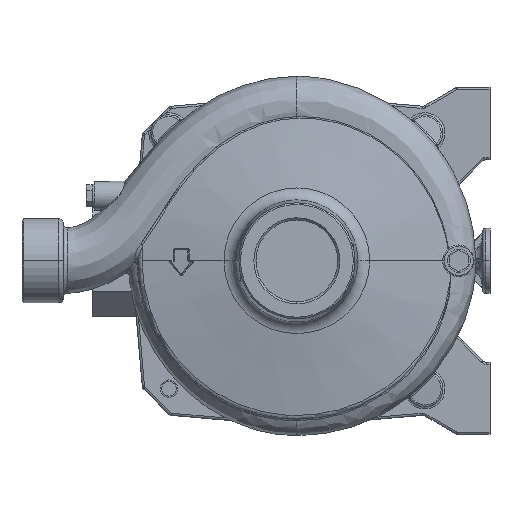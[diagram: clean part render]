
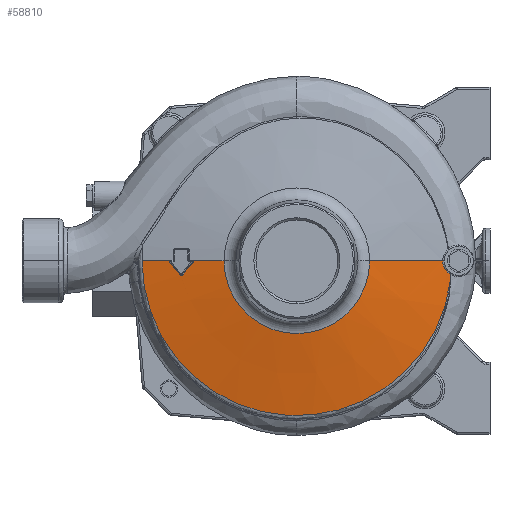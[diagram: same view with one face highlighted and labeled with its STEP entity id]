
A CAD part, left-side view. The second image highlights one B-rep face of the part: STEP entity #58810.
In plain terms, the highlighted conical face has half-angle 80 degrees and reference radius 78.683 mm.
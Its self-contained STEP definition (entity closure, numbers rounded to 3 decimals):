
#40366=CARTESIAN_POINT('',(-13.857,-106.12,
16.811));
#44580=DIRECTION('',(0.,0.985,0.174));
#44581=VECTOR('',#44580,51.261);
#44582=CARTESIAN_POINT('',(0.,-100.826,
17.903));
#44583=LINE('',#44582,#44581);
#44660=CARTESIAN_POINT('',(0.,88.098,
20.147));
#44980=CARTESIAN_POINT('',(0.,-100.826,
17.903));
#44981=CARTESIAN_POINT('',(-0.742,-100.827,
17.903));
#44982=CARTESIAN_POINT('',(-2.183,-100.971,
17.875));
#44983=CARTESIAN_POINT('',(-4.322,-101.634,
17.746));
#44984=CARTESIAN_POINT('',(-6.242,-102.687,
17.543));
#44985=CARTESIAN_POINT('',(-7.963,-104.141,
17.266));
#44986=CARTESIAN_POINT('',(-8.884,-105.315,
17.046));
#44987=CARTESIAN_POINT('',(-9.292,-105.964,
16.926));
#44989=CARTESIAN_POINT('',(-9.292,-105.964,
16.926));
#44990=CARTESIAN_POINT('',(-9.561,-105.973,
16.92));
#44991=CARTESIAN_POINT('',(-10.083,-105.99,
16.908));
#44992=CARTESIAN_POINT('',(-10.812,-106.013,
16.892));
#44993=CARTESIAN_POINT('',(-11.493,-106.035,
16.875));
#44994=CARTESIAN_POINT('',(-12.13,-106.055,
16.859));
#44995=CARTESIAN_POINT('',(-12.726,-106.076,
16.844));
#44996=CARTESIAN_POINT('',(-13.281,-106.096,
16.828));
#44997=CARTESIAN_POINT('',(-13.665,-106.112,
16.817));
#44998=CARTESIAN_POINT('',(-13.857,-106.12,
16.811));
#45000=CARTESIAN_POINT('',(0.,0.,16.811));
#45001=DIRECTION('',(0.,0.,1.));
#45002=DIRECTION('',(0.,1.,0.));
#45003=AXIS2_PLACEMENT_3D('',#45000,#45001,#45002);
#45005=DIRECTION('',(0.,-0.985,0.174));
#45006=VECTOR('',#45005,19.215);
#45007=CARTESIAN_POINT('',(0.,107.021,
16.811));
#45008=LINE('',#45007,#45006);
#45009=CARTESIAN_POINT('',(0.,88.098,
20.147));
#45010=CARTESIAN_POINT('',(-0.072,88.139,
20.14));
#45011=CARTESIAN_POINT('',(-0.221,88.203,
20.129));
#45012=CARTESIAN_POINT('',(-0.469,88.242,
20.122));
#45013=CARTESIAN_POINT('',(-0.715,88.219,
20.126));
#45014=CARTESIAN_POINT('',(-0.947,88.137,
20.14));
#45015=CARTESIAN_POINT('',(-1.08,88.05,
20.155));
#45016=CARTESIAN_POINT('',(-1.142,87.998,
20.164));
#45018=CARTESIAN_POINT('',(-1.142,87.998,
20.164));
#45019=CARTESIAN_POINT('',(-2.142,87.158,
20.31));
#45020=CARTESIAN_POINT('',(-4.119,85.497,
20.592));
#45021=CARTESIAN_POINT('',(-7.021,83.06,
20.987));
#45022=CARTESIAN_POINT('',(-8.916,81.468,
21.232));
#45023=CARTESIAN_POINT('',(-9.854,80.68,
21.35));
#45025=CARTESIAN_POINT('',(-9.854,80.68,
21.35));
#45026=CARTESIAN_POINT('',(-9.912,80.632,
21.357));
#45027=CARTESIAN_POINT('',(-10.016,80.523,
21.374));
#45028=CARTESIAN_POINT('',(-10.14,80.311,
21.408));
#45029=CARTESIAN_POINT('',(-10.21,80.069,
21.449));
#45030=CARTESIAN_POINT('',(-10.217,79.813,
21.493));
#45031=CARTESIAN_POINT('',(-10.158,79.56,
21.539));
#45032=CARTESIAN_POINT('',(-10.035,79.328,
21.582));
#45033=CARTESIAN_POINT('',(-9.92,79.203,
21.607));
#45034=CARTESIAN_POINT('',(-9.854,79.148,
21.618));
#45036=CARTESIAN_POINT('',(-9.854,79.148,
21.618));
#45037=CARTESIAN_POINT('',(-8.833,78.29,
21.79));
#45038=CARTESIAN_POINT('',(-6.827,76.605,
22.123));
#45039=CARTESIAN_POINT('',(-3.931,74.172,
22.588));
#45040=CARTESIAN_POINT('',(-2.061,72.601,
22.876));
#45041=CARTESIAN_POINT('',(-1.141,71.828,
23.015));
#45043=CARTESIAN_POINT('',(-1.141,71.828,
23.015));
#45044=CARTESIAN_POINT('',(-1.103,71.796,
23.02));
#45045=CARTESIAN_POINT('',(-1.019,71.735,
23.031));
#45046=CARTESIAN_POINT('',(-0.861,71.656,
23.046));
#45047=CARTESIAN_POINT('',(-0.672,71.602,
23.056));
#45048=CARTESIAN_POINT('',(-0.453,71.587,
23.059));
#45049=CARTESIAN_POINT('',(-0.219,71.625,
23.052));
#45050=CARTESIAN_POINT('',(-0.072,71.687,
23.041));
#45051=CARTESIAN_POINT('',(0.,71.728,
23.034));
#45053=DIRECTION('',(0.,-0.985,0.174));
#45054=VECTOR('',#45053,21.714);
#45055=CARTESIAN_POINT('',(0.,71.728,
23.034));
#45056=LINE('',#45055,#45054);
#45057=CARTESIAN_POINT('',(0.,0.,26.804));
#45058=DIRECTION('',(0.,0.,-1.));
#45059=DIRECTION('',(0.,-1.,0.));
#45060=AXIS2_PLACEMENT_3D('',#45057,#45058,#45059);
#46347=CARTESIAN_POINT('',(0.,-50.344,26.804));
#46348=CARTESIAN_POINT('',(0.,50.344,26.804));
#46349=VERTEX_POINT('',#46347);
#46350=VERTEX_POINT('',#46348);
#46423=VERTEX_POINT('',#45043);
#46424=VERTEX_POINT('',#45051);
#46449=VERTEX_POINT('',#44660);
#46451=VERTEX_POINT('',#45016);
#46453=VERTEX_POINT('',#45023);
#46455=VERTEX_POINT('',#45034);
#46457=CARTESIAN_POINT('',(0.,107.021,
16.811));
#46458=VERTEX_POINT('',#46457);
#46851=CARTESIAN_POINT('',(0.,-100.826,
17.903));
#46853=VERTEX_POINT('',#46851);
#46856=VERTEX_POINT('',#44987);
#47203=VERTEX_POINT('',#40366);
#58785=CARTESIAN_POINT('',(0.,0.,21.808));
#58786=DIRECTION('',(0.,0.,-1.));
#58787=DIRECTION('',(0.,-1.,0.));
#58788=AXIS2_PLACEMENT_3D('',#58785,#58786,#58787);
#58789=CONICAL_SURFACE('',#58788,78.683,80.);
#58790=ORIENTED_EDGE('',*,*,#58268,.T.);
#58791=ORIENTED_EDGE('',*,*,#47873,.T.);
#58792=ORIENTED_EDGE('',*,*,#48041,.F.);
#58793=ORIENTED_EDGE('',*,*,#58172,.T.);
#58795=ORIENTED_EDGE('',*,*,#58794,.T.);
#58797=ORIENTED_EDGE('',*,*,#58796,.T.);
#58799=ORIENTED_EDGE('',*,*,#58798,.T.);
#58801=ORIENTED_EDGE('',*,*,#58800,.T.);
#58803=ORIENTED_EDGE('',*,*,#58802,.T.);
#58804=ORIENTED_EDGE('',*,*,#58152,.T.);
#58806=ORIENTED_EDGE('',*,*,#58805,.F.);
#58807=ORIENTED_EDGE('',*,*,#58148,.F.);
#58808=EDGE_LOOP('',(#58790,#58791,#58792,#58793,#58795,#58797,#58799,#58801,
#58803,#58804,#58806,#58807));
#58809=FACE_OUTER_BOUND('',#58808,.F.);
#44988=B_SPLINE_CURVE_WITH_KNOTS('',3,(#44980,#44981,#44982,#44983,#44984,
#44985,#44986,#44987),.UNSPECIFIED.,.F.,.F.,(4,1,1,1,1,4),(0.,0.2,0.4,
0.6,0.8,1.),.UNSPECIFIED.);
#44999=B_SPLINE_CURVE_WITH_KNOTS('',3,(#44989,#44990,#44991,#44992,#44993,
#44994,#44995,#44996,#44997,#44998),.UNSPECIFIED.,.F.,.F.,(4,1,1,1,1,1,1,4),(
0.,0.143,0.286,0.429,0.571,
0.714,0.857,1.),.UNSPECIFIED.);
#45004=CIRCLE('',#45003,107.021);
#45017=B_SPLINE_CURVE_WITH_KNOTS('',3,(#45009,#45010,#45011,#45012,#45013,
#45014,#45015,#45016),.UNSPECIFIED.,.F.,.F.,(4,1,1,1,1,4),(0.,0.2,0.4,
0.6,0.8,1.),.UNSPECIFIED.);
#45024=B_SPLINE_CURVE_WITH_KNOTS('',3,(#45018,#45019,#45020,#45021,#45022,
#45023),.UNSPECIFIED.,.F.,.F.,(4,1,1,4),(0.,0.333,
0.667,1.),.UNSPECIFIED.);
#45035=B_SPLINE_CURVE_WITH_KNOTS('',3,(#45025,#45026,#45027,#45028,#45029,
#45030,#45031,#45032,#45033,#45034),.UNSPECIFIED.,.F.,.F.,(4,1,1,1,1,1,1,4),(
0.,0.143,0.286,0.429,0.571,
0.714,0.857,1.),.UNSPECIFIED.);
#45042=B_SPLINE_CURVE_WITH_KNOTS('',3,(#45036,#45037,#45038,#45039,#45040,
#45041),.UNSPECIFIED.,.F.,.F.,(4,1,1,4),(0.,0.333,
0.667,1.),.UNSPECIFIED.);
#45052=B_SPLINE_CURVE_WITH_KNOTS('',3,(#45043,#45044,#45045,#45046,#45047,
#45048,#45049,#45050,#45051),.UNSPECIFIED.,.F.,.F.,(4,1,1,1,1,1,4),(0.,
0.167,0.333,0.5,0.667,0.833,
1.),.UNSPECIFIED.);
#45061=CIRCLE('',#45060,50.344);
#47873=EDGE_CURVE('',#46856,#47203,#44999,.T.);
#48041=EDGE_CURVE('',#46458,#47203,#45004,.T.);
#58148=EDGE_CURVE('',#46853,#46349,#44583,.T.);
#58152=EDGE_CURVE('',#46424,#46350,#45056,.T.);
#58172=EDGE_CURVE('',#46458,#46449,#45008,.T.);
#58268=EDGE_CURVE('',#46853,#46856,#44988,.T.);
#58794=EDGE_CURVE('',#46449,#46451,#45017,.T.);
#58796=EDGE_CURVE('',#46451,#46453,#45024,.T.);
#58798=EDGE_CURVE('',#46453,#46455,#45035,.T.);
#58800=EDGE_CURVE('',#46455,#46423,#45042,.T.);
#58802=EDGE_CURVE('',#46423,#46424,#45052,.T.);
#58805=EDGE_CURVE('',#46349,#46350,#45061,.T.);
#58810=ADVANCED_FACE('',(#58809),#58789,.T.);
